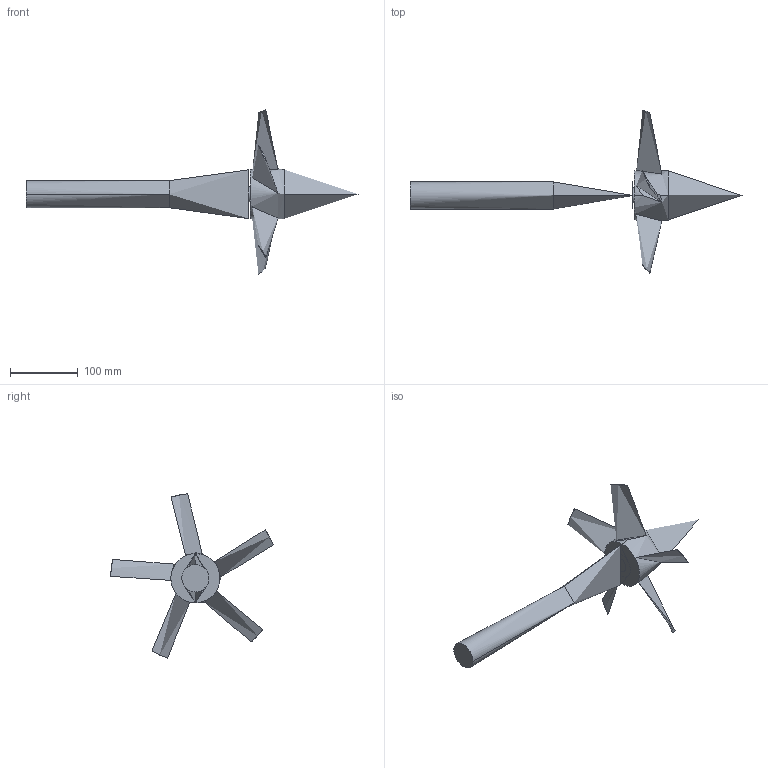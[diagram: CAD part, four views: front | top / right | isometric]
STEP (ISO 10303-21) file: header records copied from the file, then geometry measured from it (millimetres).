
FILE_DESCRIPTION(/* description */ (''),/* implementation_level */ '2;1');
FILE_NAME(/* name */ 'case2-1_PPTC_geo_no_gap',/* time_stamp */ '2011-08-26T11:27:31+02:00',/* author */ (''),/* organization */ (''),/* preprocessor_version */ 'ST-DEVELOPER v10',/* originating_system */ '',/* authorisation */ '');
FILE_SCHEMA (('AUTOMOTIVE_DESIGN_CC2'));
Length unit declared in the file: millimetre
Products named in the file (1): 1
Bounding box: 489.69 x 239.85 x 242.47 mm (x, y, z)
Volume: 1175504.5 mm3; surface area: 163418.6 mm2
Topology: 1 solids, 1 shells, 35 faces, 115 edges, 78 vertices
Faces by surface type: bspline 32, plane 3
Entity records: 11110 total; most frequent: CARTESIAN_POINT 10441, ORIENTED_EDGE 162, EDGE_CURVE 81, VERTEX_POINT 54, B_SPLINE_CURVE_WITH_KNOTS 42, EDGE_LOOP 41, ADVANCED_FACE 35, FACE_OUTER_BOUND 35
